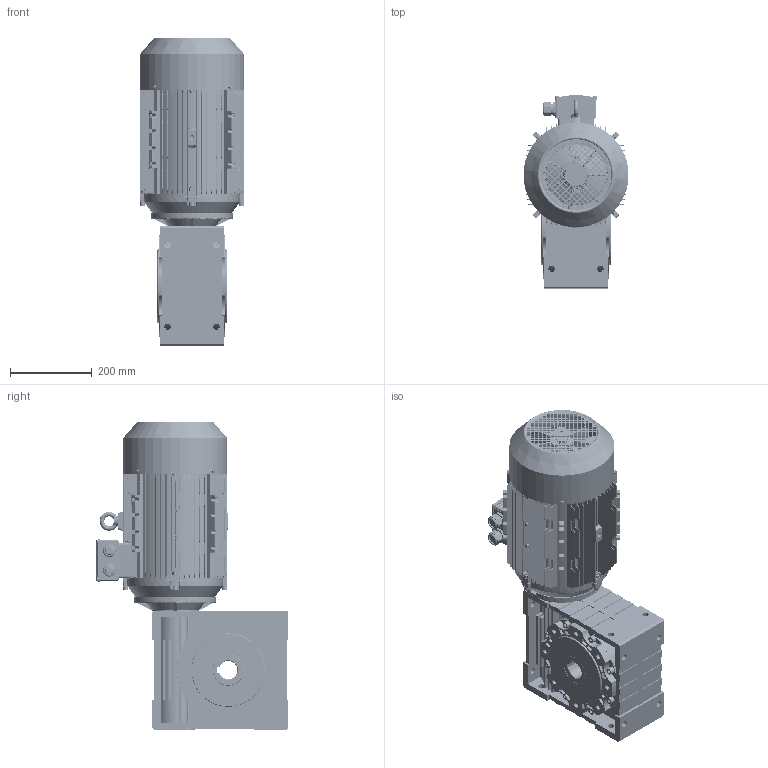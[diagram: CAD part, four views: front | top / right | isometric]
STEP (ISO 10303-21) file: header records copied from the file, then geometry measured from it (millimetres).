
FILE_DESCRIPTION (( 'STEP AP203' ), '1' );
FILE_NAME ('CMRV130_MX3-132M.STEP', '2018-11-13T14:01:30', ( '' ), ( '' ), 'SwSTEP 2.0', 'SolidWorks 2012', '' );
FILE_SCHEMA (( 'CONFIG_CONTROL_DESIGN' ));
Length unit declared in the file: millimetre
Products named in the file (26): CMRV130_MX3-132M; MX3-132M_B14; DMX-IE3 Flange; cross recessed pan head screws gb_GB_CROSS_SCREWS_TYPE1 M5X12-12  H type-N; hexagon flange head tapping screws gb_GB_SQUARE_AND_HEXAGON_TYPE137 ST4.8X9.5 C-N; hexagon nuts grade c gb_GB_FASTENER_NUT_SNC1 M8-N; hexagon socket head cap screws gb_GB_FASTENER_SCREWS_HSHCS M8X40-N; spring lock washers--normal type gb_GB_FASTENER_WASHER_SW 8; eyebolts gb_GB_FASTENER_SCREWS_FRS M10-N; plain parallel keys_GB_CONNECTING_PIECE_KEYS_CSK 10X70; DMX-IE3 132 oil seal; DMX-IE3 132 shaft cover; DMX-IE3 132 terimianl cover; DMX-IE3 132 terminal base; DMX-IE3 132 fan cover; DMX-IE3 132 fan; deep groove ball bearings gb_Rolling bearings 6308 GB 276-94; DMX-IE3 132shaft; DMX-IE3 132 B3 Shield; DMX-IE3 132 casing; FCN 130-132B14; 0201111108001; GBú»T 70ú«1-2000-+-¨¢ÃÈ¦Í¨-À-¦ÂñM8í-20(8ú«8+Â); 5_1; 4_2; 1_2
Assembly tree (58 placements, depth 3):
  CMRV130_MX3-132M
    FCN 130-132B14
      1_2
      4_2
      5_1
      GBú»T 70ú«1-2000-+-¨¢ÃÈ¦Í¨-À-¦ÂñM8í-20(8ú«8+Â)  x6
      0201111108001
    MX3-132M_B14
      DMX-IE3 132 casing
      DMX-IE3 132 B3 Shield
      DMX-IE3 132shaft
      deep groove ball bearings gb_Rolling bearings 6308 GB 276-94  x2
      DMX-IE3 132 fan
      DMX-IE3 132 fan cover
      DMX-IE3 132 terminal base
      DMX-IE3 132 terimianl cover
      DMX-IE3 132 shaft cover  x2
      DMX-IE3 132 oil seal
      plain parallel keys_GB_CONNECTING_PIECE_KEYS_CSK 10X70
      eyebolts gb_GB_FASTENER_SCREWS_FRS M10-N
      spring lock washers--normal type gb_GB_FASTENER_WASHER_SW 8  x8
      hexagon socket head cap screws gb_GB_FASTENER_SCREWS_HSHCS M8X40-N  x8
      hexagon nuts grade c gb_GB_FASTENER_NUT_SNC1 M8-N  x7
      hexagon flange head tapping screws gb_GB_SQUARE_AND_HEXAGON_TYPE137 ST4.8X9.5 C-N  x4
      cross recessed pan head screws gb_GB_CROSS_SCREWS_TYPE1 M5X12-12  H type-N  x4
      DMX-IE3 Flange
Bounding box: 256.22 x 472.5 x 756.07 mm (x, y, z)
Volume: 16904575.3 mm3; surface area: 2775046.2 mm2
Topology: 57 solids, 60 shells, 8557 faces, 22167 edges, 13690 vertices
Faces by surface type: plane 3038, cylinder 2339, bspline 2204, cone 588, torus 270, sphere 118
Entity records: 342698 total; most frequent: CARTESIAN_POINT 166441, ORIENTED_EDGE 39910, DIRECTION 30311, EDGE_CURVE 19955, VERTEX_POINT 12412, AXIS2_PLACEMENT_3D 10824, VECTOR 8663, LINE 8663
